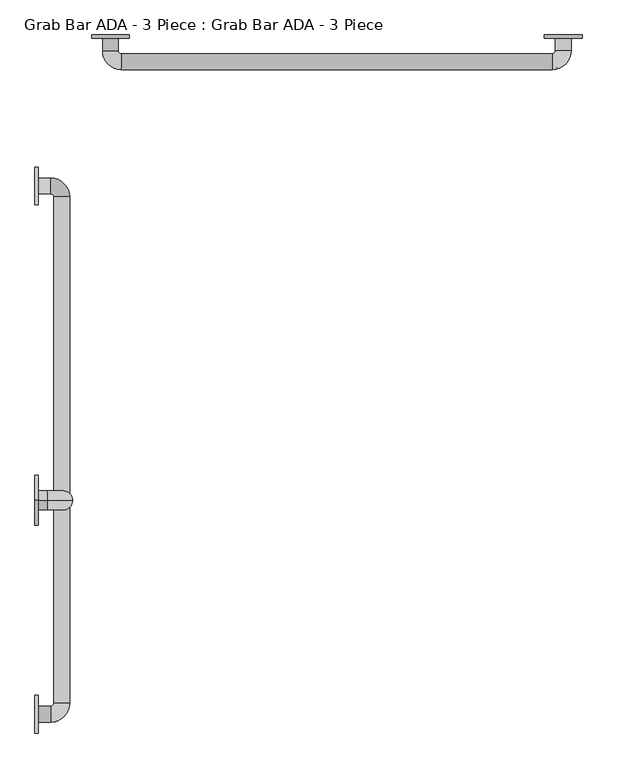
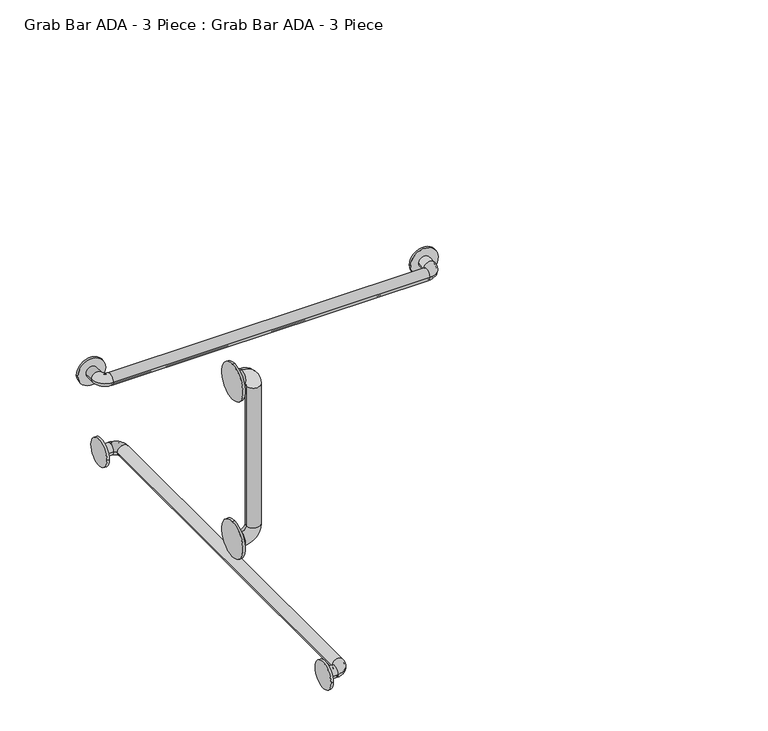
"""IFC4 building model written with IfcOpenShell, lengths in millimetres: proxy geometry, Grab Bar ADA - 3 Piece : Grab Bar ADA - 3 Piece."""

import ifcopenshell
import ifcopenshell.guid

model = None  # the IFC model being written
_history = None  # IfcOwnerHistory: only IFC2X3 demands one
_inside = {}  # id of a spatial element -> (the spatial element, [elements in it])
_under = {}  # id of a project, library or spatial element -> (it, [spatial elements below it])
_declared = {}  # id of a project -> (the project, [libraries it declares])
_typed = {}  # id of a type object -> (the type object, [elements of that type])
_made_of = {}  # id of a material, layer set ... -> (it, [elements and type objects made of it])


def new_model(schema):
    """Start an empty IFC model of exactly this schema.

    Asked for "IFC4X3", IfcOpenShell would pick the latest addendum, in which some entities
    have other attributes; the version numbers below select the first issue.
    IFC2X3 requires an IfcOwnerHistory on every rooted entity: one is made here for all.
    """
    global model, _history
    if schema == "IFC4X3":
        model = ifcopenshell.file(schema_version=(4, 3, 0, 0))
    else:
        model = ifcopenshell.file(schema=schema)
    _inside.clear()
    _under.clear()
    _declared.clear()
    _typed.clear()
    _made_of.clear()
    _history = None
    if model.schema == "IFC2X3":
        org = make("IfcOrganization", Name="unknown")
        user = make(
            "IfcPersonAndOrganization",
            ThePerson=make("IfcPerson", FamilyName="unknown"),
            TheOrganization=org,
        )
        app = make(
            "IfcApplication",
            ApplicationDeveloper=org,
            Version="unknown",
            ApplicationFullName="unknown",
            ApplicationIdentifier="unknown",
        )
        _history = make(
            "IfcOwnerHistory",
            OwningUser=user,
            OwningApplication=app,
            ChangeAction="ADDED",
            CreationDate=0,
        )
    return model


def make(cls, **values):
    """One entity of the class cls with the attributes given. An attribute that is None is left unset."""
    return model.create_entity(
        cls, **{name: value for name, value in values.items() if value is not None}
    )


def rooted(cls, **values):
    """An entity with a GlobalId (a new one), such as an element, a storey or a relation."""
    return make(cls, GlobalId=ifcopenshell.guid.new(), OwnerHistory=_history, **values)


def si_unit(unit_type, name, prefix=None):
    """IfcSIUnit, for example si_unit("LENGTHUNIT", "METRE", prefix="MILLI")."""
    return make("IfcSIUnit", UnitType=unit_type, Prefix=prefix, Name=name)


def assignment(units):
    """IfcUnitAssignment: the units of a project."""
    return None if units is None else make("IfcUnitAssignment", Units=units)


def point(xyz):
    """IfcCartesianPoint."""
    return None if xyz is None else make("IfcCartesianPoint", Coordinates=xyz)


def direction(xyz):
    """IfcDirection."""
    return None if xyz is None else make("IfcDirection", DirectionRatios=xyz)


def frame(location, z_axis=None, x_axis=None):
    """IfcAxis2Placement3D, a coordinate frame: its origin and axes. An axis left out is left unset."""
    return make(
        "IfcAxis2Placement3D",
        Location=point(location),
        Axis=direction(z_axis),
        RefDirection=direction(x_axis),
    )


def frame_2d(location, x_axis=None):
    """IfcAxis2Placement2D, a coordinate frame in the plane: its origin and x axis."""
    return make(
        "IfcAxis2Placement2D", Location=point(location), RefDirection=direction(x_axis)
    )


def origin():
    """The frame at (0, 0, 0) with its axes left unset."""
    return frame((0.0, 0.0, 0.0))


def place(relative_to, where):
    """IfcLocalPlacement: puts the frame where relative to a parent placement (None: the world)."""
    return make(
        "IfcLocalPlacement", PlacementRelTo=relative_to, RelativePlacement=where
    )


def context(
    kind, dimensions, precision=None, world=None, true_north=None, identifier=None
):
    """IfcGeometricRepresentationContext, for example the 3D "Model" context."""
    return make(
        "IfcGeometricRepresentationContext",
        ContextIdentifier=identifier,
        ContextType=kind,
        CoordinateSpaceDimension=dimensions,
        Precision=precision,
        WorldCoordinateSystem=world,
        TrueNorth=true_north,
    )


def project(units=None, contexts=None):
    """IfcProject with its units and contexts."""
    return rooted(
        "IfcProject",
        Name="project",
        RepresentationContexts=contexts,
        UnitsInContext=assignment(units),
    )


def spatial(cls, under=None, at=None, **own):
    """A site, building, storey or space (cls), placed at a placement, below another one or the project."""
    s = rooted(cls, ObjectPlacement=at, **own)
    if under is not None:
        _under.setdefault(under.id(), (under, []))[1].append(s)
    return s


def polyline(points):
    """IfcPolyline through the points."""
    return make("IfcPolyline", Points=[point(p) for p in points])


def circle_curve(where, radius):
    """IfcCircle in the frame where."""
    return make("IfcCircle", Position=where, Radius=radius)


def ellipse_curve(where, semi_axis1, semi_axis2):
    """IfcEllipse in the frame where."""
    return make(
        "IfcEllipse", Position=where, SemiAxis1=semi_axis1, SemiAxis2=semi_axis2
    )


def trimmed(basis, trim1, trim2, sense, master):
    """IfcTrimmedCurve: the piece of a basis curve between two trims."""
    return make(
        "IfcTrimmedCurve",
        BasisCurve=basis,
        Trim1=trim1,
        Trim2=trim2,
        SenseAgreement=sense,
        MasterRepresentation=master,
    )


def segment(curve, same_sense, transition):
    """IfcCompositeCurveSegment."""
    return make(
        "IfcCompositeCurveSegment",
        Transition=transition,
        SameSense=same_sense,
        ParentCurve=curve,
    )


def composite_curve(segments, self_intersect=None):
    """IfcCompositeCurve: segments joined end to end."""
    return make("IfcCompositeCurve", Segments=segments, SelfIntersect=self_intersect)


def outline(outer, holes=None, kind="AREA"):
    """IfcArbitraryClosedProfileDef: a profile drawn as a closed curve; with holes, ...WithVoids."""
    if holes is None:
        return make("IfcArbitraryClosedProfileDef", ProfileType=kind, OuterCurve=outer)
    return make(
        "IfcArbitraryProfileDefWithVoids",
        ProfileType=kind,
        OuterCurve=outer,
        InnerCurves=holes,
    )


def extrude(swept, where, along, depth):
    """IfcExtrudedAreaSolid: the profile swept, set in the frame where, extruded along a direction by depth."""
    return make(
        "IfcExtrudedAreaSolid",
        SweptArea=swept,
        Position=where,
        ExtrudedDirection=direction(along),
        Depth=depth,
    )


def shape(context_of_items, identifier, shape_type, items):
    """IfcShapeRepresentation: the items that make up one representation, for example the "Body"."""
    return make(
        "IfcShapeRepresentation",
        ContextOfItems=context_of_items,
        RepresentationIdentifier=identifier,
        RepresentationType=shape_type,
        Items=items,
    )


def source(mapping_origin, context_of_items, identifier, shape_type, items):
    """IfcRepresentationMap: a shape defined once, which mapped items show again and again."""
    return make(
        "IfcRepresentationMap",
        MappingOrigin=mapping_origin,
        MappedRepresentation=shape(context_of_items, identifier, shape_type, items),
    )


def transform(
    local_origin,
    x_axis=None,
    y_axis=None,
    z_axis=None,
    scale=None,
    scale2=None,
    scale3=None,
    uniform=True,
):
    """IfcCartesianTransformationOperator3D, or its non-uniform kind. x_axis, y_axis, z_axis: its Axis1, 2, 3."""
    if uniform:
        return make(
            "IfcCartesianTransformationOperator3D",
            Axis1=direction(x_axis),
            Axis2=direction(y_axis),
            LocalOrigin=point(local_origin),
            Scale=scale,
            Axis3=direction(z_axis),
        )
    return make(
        "IfcCartesianTransformationOperator3DnonUniform",
        Axis1=direction(x_axis),
        Axis2=direction(y_axis),
        LocalOrigin=point(local_origin),
        Scale=scale,
        Axis3=direction(z_axis),
        Scale2=scale2,
        Scale3=scale3,
    )


def mapped(mapping_source, mapping_target):
    """IfcMappedItem: shows the shape of a source again, moved by a transform."""
    return make(
        "IfcMappedItem", MappingSource=mapping_source, MappingTarget=mapping_target
    )


def made_of(thing, what):
    """Note that an element or type object is made of a material, layer set ...; save() writes the relation."""
    if what is not None:
        _made_of.setdefault(what.id(), (what, []))[1].append(thing)
    return thing


def element(
    cls,
    number,
    at=None,
    inside=None,
    cuts=None,
    type_object=None,
    material=None,
    context=None,
    identifier="Body",
    shape_type=None,
    held_by="IfcProductDefinitionShape",
    body=None,
    shapes=None,
    **own,
):
    """One element of the class cls, such as IfcWall. Its Tag is "e" and its number.

    at: its placement. inside: the storey or other place that contains it. cuts: it is an
    opening in that element (IfcRelVoidsElement). A single representation is given by context,
    identifier, shape_type and body (its items); several are given by shapes. held_by: the class
    of the entity that holds the representations. save() writes the other relations.
    """
    e = rooted(cls, Tag="e%d" % number, ObjectPlacement=at, **own)
    if body is not None:
        shapes = [shape(context, identifier, shape_type, body)]
    if shapes is not None:
        e.Representation = make(held_by, Representations=shapes)
    if inside is not None:
        _inside.setdefault(inside.id(), (inside, []))[1].append(e)
    if cuts is not None:
        rooted(
            "IfcRelVoidsElement", RelatingBuildingElement=cuts, RelatedOpeningElement=e
        )
    if type_object is not None:
        _typed.setdefault(type_object.id(), (type_object, []))[1].append(e)
    return made_of(e, material)


def aggregate(whole, parts):
    """IfcRelAggregates: a whole, such as a stair, and the parts it consists of."""
    return rooted("IfcRelAggregates", RelatingObject=whole, RelatedObjects=parts)


def save(model, path):
    """Write the relations noted so far, then the file.

    IfcRelAggregates (storeys below a building ...), IfcRelContainedInSpatialStructure (elements
    in a storey), IfcRelDefinesByType, IfcRelAssociatesMaterial and IfcRelDeclares: one each for
    every whole, place, type object, material and project.
    """
    for whole, parts in _under.values():
        aggregate(whole, parts)
    for where, things in _inside.values():
        rooted(
            "IfcRelContainedInSpatialStructure",
            RelatedElements=things,
            RelatingStructure=where,
        )
    for kind, things in _typed.values():
        rooted("IfcRelDefinesByType", RelatedObjects=things, RelatingType=kind)
    for what, things in _made_of.values():
        rooted("IfcRelAssociatesMaterial", RelatedObjects=things, RelatingMaterial=what)
    for by, libraries in _declared.values():
        rooted("IfcRelDeclares", RelatingContext=by, RelatedDefinitions=libraries)
    model.write(path)


def plane_surface(at):
    """IfcPlane: the flat surface through the origin of the frame at, square to its z axis."""
    return make("IfcPlane", Position=at)


def cylinder_surface(at, radius):
    """IfcCylindricalSurface: all points at the distance radius from the z axis of the frame at."""
    return make("IfcCylindricalSurface", Position=at, Radius=radius)


def revolved_surface(curve, axis_point, axis_direction):
    """IfcSurfaceOfRevolution: the curve turned about the line through axis_point along axis_direction."""
    return make(
        "IfcSurfaceOfRevolution",
        SweptCurve=make("IfcArbitraryOpenProfileDef", ProfileType="CURVE", Curve=curve),
        AxisPosition=make("IfcAxis1Placement", Location=point(axis_point), Axis=direction(axis_direction)),
    )


def advanced_brep(points, edges, surfaces, faces):
    """IfcAdvancedBrep: a solid bounded by faces that lie on surfaces and meet in shared edges.

    An edge is (start, end): straight between two places in points (the first is 0);
    or (start, end, curve); or (start, end, curve, False) where it runs against its curve.
    A face is (place in surfaces, loops), or (place, loops, False) where it looks against
    its surface's normal. A loop lists edges by number (the first is 1), with a minus sign
    where the edge is run from its end to its start. The first loop is the outer one.
    """
    corners = [point(p) for p in points]
    vertices = [make("IfcVertexPoint", VertexGeometry=c) for c in corners]
    made = []
    for start, end, *more in edges:
        made.append(
            make(
                "IfcEdgeCurve",
                EdgeStart=vertices[start],
                EdgeEnd=vertices[end],
                EdgeGeometry=more[0] if more else make("IfcPolyline", Points=[corners[start], corners[end]]),
                SameSense=more[1] if len(more) > 1 else True,
            )
        )
    hull = []
    for where, loops, *sense in faces:
        bounds = []
        for j, loop in enumerate(loops):
            ring = [make("IfcOrientedEdge", EdgeElement=made[abs(k) - 1], Orientation=k > 0) for k in loop]
            bounds.append(
                make(
                    "IfcFaceOuterBound" if j == 0 else "IfcFaceBound",
                    Bound=make("IfcEdgeLoop", EdgeList=ring),
                    Orientation=True,
                )
            )
        hull.append(make("IfcAdvancedFace", Bounds=bounds, FaceSurface=surfaces[where], SameSense=sense[0] if sense else True))
    return make("IfcAdvancedBrep", Outer=make("IfcClosedShell", CfsFaces=hull))


def grab_bar_ada_3_piece_grab_bar_ada_3_piece_66226777(model_context):
    return source(origin(), model_context, "Body", "SolidModel", [
        extrude(outline(composite_curve([segment(trimmed(circle_curve(frame_2d((-1092.2, 1428.75)), 50.8), [point((-1092.2, 1479.55))], [point((-1092.2, 1377.95))], False, "CARTESIAN"), True, "CONTINUOUS"), segment(trimmed(circle_curve(frame_2d((-1092.2, 1428.75)), 50.8), [point((-1092.2, 1377.95))], [point((-1092.2, 1479.55))], False, "CARTESIAN"), True, "CONTINUOUS")], self_intersect=False)), frame((0.0, 0.0, 0.0), z_axis=(1.0, 0.0, 0.0), x_axis=(0.0, 1.0, 0.0)), (0.0, 0.0, 1.0), 6.35),
        extrude(outline(composite_curve([segment(trimmed(circle_curve(frame_2d((-1092.2, 971.55)), 50.8), [point((-1092.2, 1022.35))], [point((-1092.2, 920.75))], False, "CARTESIAN"), True, "CONTINUOUS"), segment(trimmed(circle_curve(frame_2d((-1092.2, 971.55)), 50.8), [point((-1092.2, 920.75))], [point((-1092.2, 1022.35))], False, "CARTESIAN"), True, "CONTINUOUS")], self_intersect=False)), frame((0.0, 0.0, 0.0), z_axis=(1.0, 0.0, 0.0), x_axis=(0.0, 1.0, 0.0)), (0.0, 0.0, 1.0), 6.35),
        advanced_brep(
        [(6.35, -1092.2, 1416.05), (6.35, -1092.2, 1454.15), (25.4, -1092.2, 1454.15), (25.4, -1092.2, 1416.05), (76.2, -1092.2, 1403.35), (38.1, -1092.2, 1403.35), (76.2, -1092.2, 996.95), (38.1, -1092.2, 996.95), (25.4, -1092.2, 946.15), (25.4, -1092.2, 984.25), (6.35, -1092.2, 984.25), (6.35, -1092.2, 946.15)],
        [
            (0, 1, circle_curve(frame((6.35, -1092.2, 1435.1), z_axis=(-1.0, 0.0, 0.0), x_axis=(0.0, -1.0, 0.0)), 19.05)),
            (1, 0, circle_curve(frame((6.35, -1092.2, 1435.1), z_axis=(-1.0, 0.0, 0.0), x_axis=(0.0, -1.0, 0.0)), 19.05)),
            (1, 2),
            (2, 3, circle_curve(frame((25.4, -1092.2, 1435.1), z_axis=(-1.0, 0.0, 0.0), x_axis=(0.0, -1.0, 0.0)), 19.05)),
            (3, 0),
            (3, 2, circle_curve(frame((25.4, -1092.2, 1435.1), z_axis=(-1.0, 0.0, 0.0), x_axis=(0.0, -1.0, 0.0)), 19.05)),
            (4, 5, circle_curve(frame((57.15, -1092.2, 1403.35), z_axis=(0.0, 0.0, 1.0), x_axis=(0.0, -1.0, 0.0)), 19.05)),
            (5, 3, circle_curve(frame((25.4, -1092.2, 1403.35), z_axis=(0.0, -1.0, 0.0), x_axis=(0.0, 0.0, 1.0)), 12.7)),
            (2, 4, circle_curve(frame((25.4, -1092.2, 1403.35), z_axis=(0.0, 1.0, 0.0), x_axis=(0.0, 0.0, 1.0)), 50.8)),
            (5, 4, circle_curve(frame((57.15, -1092.2, 1403.35), z_axis=(0.0, 0.0, 1.0), x_axis=(0.0, -1.0, 0.0)), 19.05)),
            (4, 6),
            (6, 7, circle_curve(frame((57.15, -1092.2, 996.95), z_axis=(0.0, 0.0, 1.0), x_axis=(0.0, -1.0, 0.0)), 19.05)),
            (7, 5),
            (7, 6, circle_curve(frame((57.15, -1092.2, 996.95), z_axis=(0.0, 0.0, 1.0), x_axis=(0.0, -1.0, 0.0)), 19.05)),
            (8, 9, circle_curve(frame((25.4, -1092.2, 965.2), z_axis=(1.0, 0.0, 0.0), x_axis=(0.0, -1.0, 0.0)), 19.05)),
            (9, 7, circle_curve(frame((25.4, -1092.2, 996.95), z_axis=(0.0, -1.0, 0.0), x_axis=(1.0, 0.0, 0.0)), 12.7)),
            (6, 8, circle_curve(frame((25.4, -1092.2, 996.95), z_axis=(0.0, 1.0, 0.0), x_axis=(1.0, 0.0, 0.0)), 50.8)),
            (9, 8, circle_curve(frame((25.4, -1092.2, 965.2), z_axis=(1.0, 0.0, 0.0), x_axis=(0.0, -1.0, 0.0)), 19.05)),
            (10, 11, circle_curve(frame((6.35, -1092.2, 965.2), z_axis=(-1.0, 0.0, 0.0), x_axis=(0.0, -1.0, 0.0)), 19.05)),
            (11, 10, circle_curve(frame((6.35, -1092.2, 965.2), z_axis=(-1.0, 0.0, 0.0), x_axis=(0.0, -1.0, 0.0)), 19.05)),
            (8, 11),
            (10, 9),
        ],
        [
            plane_surface(frame((6.35, -177.8, 495.2784016), z_axis=(-1.0, 0.0, 0.0), x_axis=(0.0, -1.0, 0.0))),
            cylinder_surface(frame((6.35, -1092.2, 1435.1), z_axis=(-1.0, 0.0, 0.0), x_axis=(0.0, -1.0, 0.0)), 19.05),
            revolved_surface(trimmed(ellipse_curve(frame((25.4, -1092.2, 1435.1), z_axis=(1.0, 0.0, 0.0), x_axis=(0.0, -1.0, 0.0)), 19.05, 19.05), [point((25.4, -1092.2, 1416.05))], [point((25.4, -1092.2, 1454.15))], True, "CARTESIAN"), (25.4, -177.8, 1403.35), (0.0, -1.0, 0.0)),
            revolved_surface(trimmed(ellipse_curve(frame((25.4, -1092.2, 1435.1), z_axis=(1.0, 0.0, 0.0), x_axis=(0.0, -1.0, 0.0)), 19.05, 19.05), [point((25.4, -1092.2, 1454.15))], [point((25.4, -1092.2, 1416.05))], True, "CARTESIAN"), (25.4, -177.8, 1403.35), (0.0, -1.0, 0.0)),
            cylinder_surface(frame((57.15, -1092.2, 1403.35), z_axis=(0.0, 0.0, 1.0), x_axis=(0.0, -1.0, 0.0)), 19.05),
            revolved_surface(trimmed(ellipse_curve(frame((57.15, -1092.2, 996.95), z_axis=(0.0, 0.0, -1.0), x_axis=(0.0, -1.0, 0.0)), 19.05, 19.05), [point((38.1, -1092.2, 996.95))], [point((76.2, -1092.2, 996.95))], True, "CARTESIAN"), (25.4, -177.8, 996.95), (0.0, -1.0, 0.0)),
            revolved_surface(trimmed(ellipse_curve(frame((57.15, -1092.2, 996.95), z_axis=(0.0, 0.0, -1.0), x_axis=(0.0, -1.0, 0.0)), 19.05, 19.05), [point((76.2, -1092.2, 996.95))], [point((38.1, -1092.2, 996.95))], True, "CARTESIAN"), (25.4, -177.8, 996.95), (0.0, -1.0, 0.0)),
            plane_surface(frame((6.35, -177.8, 38.0784016), z_axis=(-1.0, 0.0, 0.0), x_axis=(0.0, 1.0, 0.0))),
            cylinder_surface(frame((25.4, -1092.2, 965.2), z_axis=(1.0, 0.0, 0.0), x_axis=(0.0, -1.0, 0.0)), 19.05),
        ],
        [
            (0, [[1, 2]]),
            (1, [[3, 4, 5, -2]]),
            (1, [[-5, 6, -3, -1]]),
            (2, [[7, 8, -4, 9]]),
            (3, [[10, -9, -6, -8]]),
            (4, [[11, 12, 13, -7]]),
            (4, [[-13, 14, -11, -10]]),
            (5, [[15, 16, -12, 17]]),
            (6, [[18, -17, -14, -16]]),
            (7, [[19, 20]]),
            (8, [[21, -19, 22, -15]]),
            (8, [[-22, -20, -21, -18]]),
        ],
    ),
        advanced_brep(
        [(6.35, -1508.125, 838.2), (6.35, -1539.875, 838.2), (6.35, -1511.3, 838.2), (6.35, -1536.7, 838.2), (31.75, -1539.875, 838.2), (31.75, -1508.125, 838.2), (31.75, -1536.7, 838.2), (31.75, -1511.3, 838.2), (69.85, -1501.775, 838.2), (38.1, -1501.775, 838.2), (66.675, -1501.775, 838.2), (41.275, -1501.775, 838.2), (69.85, -479.425, 838.2), (38.1, -479.425, 838.2), (66.675, -479.425, 838.2), (41.275, -479.425, 838.2), (31.75, -441.325, 838.2), (31.75, -473.075, 838.2), (31.75, -444.5, 838.2), (31.75, -469.9, 838.2), (6.35, -473.075, 838.2), (6.35, -441.325, 838.2), (6.35, -469.9, 838.2), (6.35, -444.5, 838.2)],
        [
            (0, 1, circle_curve(frame((6.35, -1524.0, 838.2), z_axis=(-1.0, 0.0, 0.0), x_axis=(0.0, -1.0, 0.0)), 15.875)),
            (1, 0, circle_curve(frame((6.35, -1524.0, 838.2), z_axis=(-1.0, 0.0, 0.0), x_axis=(0.0, -1.0, 0.0)), 15.875)),
            (2, 3, circle_curve(frame((6.35, -1524.0, 838.2), z_axis=(1.0, 0.0, 0.0), x_axis=(0.0, -1.0, 0.0)), 12.7)),
            (3, 2, circle_curve(frame((6.35, -1524.0, 838.2), z_axis=(1.0, 0.0, 0.0), x_axis=(0.0, -1.0, 0.0)), 12.7)),
            (1, 4),
            (4, 5, circle_curve(frame((31.75, -1524.0, 838.2), z_axis=(-1.0, 0.0, 0.0), x_axis=(0.0, -1.0, 0.0)), 15.875)),
            (5, 0),
            (5, 4, circle_curve(frame((31.75, -1524.0, 838.2), z_axis=(-1.0, 0.0, 0.0), x_axis=(0.0, -1.0, 0.0)), 15.875)),
            (3, 6),
            (6, 7, circle_curve(frame((31.75, -1524.0, 838.2), z_axis=(1.0, 0.0, 0.0), x_axis=(0.0, -1.0, 0.0)), 12.7)),
            (7, 2),
            (7, 6, circle_curve(frame((31.75, -1524.0, 838.2), z_axis=(1.0, 0.0, 0.0), x_axis=(0.0, -1.0, 0.0)), 12.7)),
            (8, 9, circle_curve(frame((53.975, -1501.775, 838.2), z_axis=(0.0, -1.0, 0.0), x_axis=(1.0, 0.0, 0.0)), 15.875)),
            (9, 5, circle_curve(frame((31.75, -1501.775, 838.2), z_axis=(0.0, 0.0, -1.0), x_axis=(0.0, -1.0, 0.0)), 6.35)),
            (4, 8, circle_curve(frame((31.75, -1501.775, 838.2), z_axis=(0.0, 0.0, 1.0), x_axis=(0.0, -1.0, 0.0)), 38.1)),
            (9, 8, circle_curve(frame((53.975, -1501.775, 838.2), z_axis=(0.0, -1.0, 0.0), x_axis=(1.0, 0.0, 0.0)), 15.875)),
            (10, 11, circle_curve(frame((53.975, -1501.775, 838.2), z_axis=(0.0, 1.0, 0.0), x_axis=(1.0, 0.0, 0.0)), 12.7)),
            (11, 7, circle_curve(frame((31.75, -1501.775, 838.2), z_axis=(0.0, 0.0, -1.0), x_axis=(0.0, -1.0, 0.0)), 9.525)),
            (6, 10, circle_curve(frame((31.75, -1501.775, 838.2), z_axis=(0.0, 0.0, 1.0), x_axis=(0.0, -1.0, 0.0)), 34.925)),
            (11, 10, circle_curve(frame((53.975, -1501.775, 838.2), z_axis=(0.0, 1.0, 0.0), x_axis=(1.0, 0.0, 0.0)), 12.7)),
            (8, 12),
            (12, 13, circle_curve(frame((53.975, -479.425, 838.2), z_axis=(0.0, -1.0, 0.0), x_axis=(1.0, 0.0, 0.0)), 15.875)),
            (13, 9),
            (13, 12, circle_curve(frame((53.975, -479.425, 838.2), z_axis=(0.0, -1.0, 0.0), x_axis=(1.0, 0.0, 0.0)), 15.875)),
            (10, 14),
            (14, 15, circle_curve(frame((53.975, -479.425, 838.2), z_axis=(0.0, 1.0, 0.0), x_axis=(1.0, 0.0, 0.0)), 12.7)),
            (15, 11),
            (15, 14, circle_curve(frame((53.975, -479.425, 838.2), z_axis=(0.0, 1.0, 0.0), x_axis=(1.0, 0.0, 0.0)), 12.7)),
            (16, 17, circle_curve(frame((31.75, -457.2, 838.2), z_axis=(1.0, 0.0, 0.0), x_axis=(0.0, 1.0, 0.0)), 15.875)),
            (17, 13, circle_curve(frame((31.75, -479.425, 838.2), z_axis=(0.0, 0.0, -1.0), x_axis=(1.0, 0.0, 0.0)), 6.35)),
            (12, 16, circle_curve(frame((31.75, -479.425, 838.2), z_axis=(0.0, 0.0, 1.0), x_axis=(1.0, 0.0, 0.0)), 38.1)),
            (17, 16, circle_curve(frame((31.75, -457.2, 838.2), z_axis=(1.0, 5.761307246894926e-12, 0.0), x_axis=(-5.761307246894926e-12, 1.0, 0.0)), 15.875)),
            (18, 19, circle_curve(frame((31.75, -457.2, 838.2), z_axis=(-1.0, 0.0, 0.0), x_axis=(0.0, 1.0, 0.0)), 12.7)),
            (19, 15, circle_curve(frame((31.75, -479.425, 838.2), z_axis=(0.0, 0.0, -1.0), x_axis=(1.0, 0.0, 0.0)), 9.525)),
            (14, 18, circle_curve(frame((31.75, -479.425, 838.2), z_axis=(0.0, 0.0, 1.0), x_axis=(1.0, 0.0, 0.0)), 34.925)),
            (19, 18, circle_curve(frame((31.75, -457.2, 838.2), z_axis=(-1.0, -3.69740264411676e-12, 0.0), x_axis=(-3.69740264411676e-12, 1.0, 0.0)), 12.7)),
            (20, 21, circle_curve(frame((6.35, -457.2, 838.2), z_axis=(-1.0, 0.0, 0.0), x_axis=(0.0, 1.0, 0.0)), 15.875)),
            (21, 20, circle_curve(frame((6.35, -457.2, 838.2), z_axis=(-1.0, 0.0, 0.0), x_axis=(0.0, 1.0, 0.0)), 15.875)),
            (22, 23, circle_curve(frame((6.35, -457.2, 838.2), z_axis=(1.0, 0.0, 0.0), x_axis=(0.0, 1.0, 0.0)), 12.7)),
            (23, 22, circle_curve(frame((6.35, -457.2, 838.2), z_axis=(1.0, 0.0, 0.0), x_axis=(0.0, 1.0, 0.0)), 12.7)),
            (16, 21),
            (20, 17),
            (18, 23),
            (22, 19),
        ],
        [
            plane_surface(frame((6.35, -1524.0, 838.2), z_axis=(-1.0, 0.0, 0.0), x_axis=(0.0, 0.0, 1.0))),
            cylinder_surface(frame((6.35, -1524.0, 838.2), z_axis=(-1.0, 0.0, 0.0), x_axis=(0.0, -1.0, 0.0)), 15.875),
            revolved_surface(polyline([(31.75, -1536.7, 838.2), (6.35, -1536.7, 838.2)]), (6.35, -1524.0, 838.2), (1.0, 0.0, 0.0)),
            revolved_surface(trimmed(ellipse_curve(frame((31.75, -1524.0, 838.2), z_axis=(1.0, 0.0, 0.0), x_axis=(0.0, -1.0, 0.0)), 15.875, 15.875), [point((31.75, -1508.125, 838.2))], [point((31.75, -1539.875, 838.2))], True, "CARTESIAN"), (31.75, -1501.775, 838.2), (0.0, 0.0, -1.0)),
            revolved_surface(trimmed(ellipse_curve(frame((31.75, -1524.0, 838.2), z_axis=(1.0, 0.0, 0.0), x_axis=(0.0, -1.0, 0.0)), 15.875, 15.875), [point((31.75, -1539.875, 838.2))], [point((31.75, -1508.125, 838.2))], True, "CARTESIAN"), (31.75, -1501.775, 838.2), (0.0, 0.0, -1.0)),
            revolved_surface(trimmed(ellipse_curve(frame((31.75, -1524.0, 838.2), z_axis=(-1.0, 0.0, 0.0), x_axis=(0.0, -1.0, 0.0)), 12.7, 12.7), [point((31.75, -1511.3, 838.2))], [point((31.75, -1536.7, 838.2))], True, "CARTESIAN"), (31.75, -1501.775, 838.2), (0.0, 0.0, -1.0)),
            revolved_surface(trimmed(ellipse_curve(frame((31.75, -1524.0, 838.2), z_axis=(-1.0, 0.0, 0.0), x_axis=(0.0, -1.0, 0.0)), 12.7, 12.7), [point((31.75, -1536.7, 838.2))], [point((31.75, -1511.3, 838.2))], True, "CARTESIAN"), (31.75, -1501.775, 838.2), (0.0, 0.0, -1.0)),
            cylinder_surface(frame((53.975, -1501.775, 838.2), z_axis=(0.0, -1.0, 0.0), x_axis=(1.0, 0.0, 0.0)), 15.875),
            revolved_surface(polyline([(66.675, -479.42499999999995, 838.2), (66.675, -1501.775, 838.2)]), (53.975, -1501.775, 838.2), (0.0, 1.0, 0.0)),
            revolved_surface(trimmed(ellipse_curve(frame((53.975, -479.425, 838.2), z_axis=(0.0, 1.0, 0.0), x_axis=(1.0, 0.0, 0.0)), 15.875, 15.875), [point((38.1, -479.425, 838.2))], [point((69.85, -479.425, 838.2))], True, "CARTESIAN"), (31.75, -479.425, 838.2), (0.0, 0.0, -1.0)),
            revolved_surface(trimmed(ellipse_curve(frame((53.975, -479.425, 838.2), z_axis=(0.0, 1.0, 0.0), x_axis=(1.0, 0.0, 0.0)), 15.875, 15.875), [point((69.85, -479.425, 838.2))], [point((38.1, -479.425, 838.2))], True, "CARTESIAN"), (31.75, -479.425, 838.2), (0.0, 0.0, -1.0)),
            revolved_surface(trimmed(ellipse_curve(frame((53.975, -479.425, 838.2), z_axis=(0.0, -1.0, 0.0), x_axis=(1.0, 0.0, 0.0)), 12.7, 12.7), [point((41.275, -479.425, 838.2))], [point((66.675, -479.425, 838.2))], True, "CARTESIAN"), (31.75, -479.425, 838.2), (0.0, 0.0, -1.0)),
            revolved_surface(trimmed(ellipse_curve(frame((53.975, -479.425, 838.2), z_axis=(0.0, -1.0, 0.0), x_axis=(1.0, 0.0, 0.0)), 12.7, 12.7), [point((66.675, -479.425, 838.2))], [point((41.275, -479.425, 838.2))], True, "CARTESIAN"), (31.75, -479.425, 838.2), (0.0, 0.0, -1.0)),
            plane_surface(frame((6.35, -457.2, 838.2), z_axis=(-1.0, 0.0, 0.0), x_axis=(0.0, 0.0, 1.0))),
            cylinder_surface(frame((31.75, -457.2, 838.2), z_axis=(1.0, 0.0, 0.0), x_axis=(0.0, 1.0, 0.0)), 15.875),
            revolved_surface(polyline([(6.350000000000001, -444.5, 838.2), (31.75, -444.5, 838.2)]), (31.75, -457.2, 838.2), (-1.0, 0.0, 0.0)),
            revolved_surface(polyline([(6.350000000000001, -444.5, 838.2), (31.750000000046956, -444.5, 838.2)]), (31.75, -457.2, 838.2), (-1.0, 0.0, 0.0)),
        ],
        [
            (0, [[1, 2], [3, 4]]),
            (1, [[5, 6, 7, -2]]),
            (1, [[-7, 8, -5, -1]]),
            (2, [[9, 10, 11, -4]]),
            (2, [[-11, 12, -9, -3]]),
            (3, [[13, 14, -6, 15]]),
            (4, [[16, -15, -8, -14]]),
            (5, [[17, 18, -10, 19]]),
            (6, [[20, -19, -12, -18]]),
            (7, [[21, 22, 23, -13]]),
            (7, [[-23, 24, -21, -16]]),
            (8, [[25, 26, 27, -17]]),
            (8, [[-27, 28, -25, -20]]),
            (9, [[29, 30, -22, 31]]),
            (10, [[32, -31, -24, -30]]),
            (11, [[33, 34, -26, 35]]),
            (12, [[36, -35, -28, -34]]),
            (13, [[37, 38], [39, 40]]),
            (14, [[41, -37, 42, -29]]),
            (14, [[-42, -38, -41, -32]]),
            (15, [[43, -39, 44, -33]]),
            (16, [[-44, -40, -43, -36]]),
        ],
    ),
        advanced_brep(
        [(168.275, -158.75, 838.2), (136.525, -158.75, 838.2), (165.1, -158.75, 838.2), (139.7, -158.75, 838.2), (136.525, -184.15, 838.2), (168.275, -184.15, 838.2), (139.7, -184.15, 838.2), (165.1, -184.15, 838.2), (174.625, -222.25, 838.2), (174.625, -190.5, 838.2), (174.625, -219.075, 838.2), (174.625, -193.675, 838.2), (1044.575, -222.25, 838.2), (1044.575, -190.5, 838.2), (1044.575, -219.075, 838.2), (1044.575, -193.675, 838.2), (1082.675, -184.15, 838.2), (1050.925, -184.15, 838.2), (1079.5, -184.15, 838.2), (1054.1, -184.15, 838.2), (1050.925, -158.75, 838.2), (1082.675, -158.75, 838.2), (1054.1, -158.75, 838.2), (1079.5, -158.75, 838.2)],
        [
            (0, 1, circle_curve(frame((152.4, -158.75, 838.2), z_axis=(0.0, 1.0, 0.0), x_axis=(-1.0, 0.0, 0.0)), 15.875)),
            (1, 0, circle_curve(frame((152.4, -158.75, 838.2), z_axis=(0.0, 1.0, 0.0), x_axis=(-1.0, 0.0, 0.0)), 15.875)),
            (2, 3, circle_curve(frame((152.4, -158.75, 838.2), z_axis=(0.0, -1.0, 0.0), x_axis=(-1.0, 0.0, 0.0)), 12.7)),
            (3, 2, circle_curve(frame((152.4, -158.75, 838.2), z_axis=(0.0, -1.0, 0.0), x_axis=(-1.0, 0.0, 0.0)), 12.7)),
            (1, 4),
            (4, 5, circle_curve(frame((152.4, -184.15, 838.2), z_axis=(0.0, 1.0, 0.0), x_axis=(-1.0, 0.0, 0.0)), 15.875)),
            (5, 0),
            (5, 4, circle_curve(frame((152.4, -184.15, 838.2), z_axis=(0.0, 1.0, 0.0), x_axis=(-1.0, 0.0, 0.0)), 15.875)),
            (3, 6),
            (6, 7, circle_curve(frame((152.4, -184.15, 838.2), z_axis=(0.0, -1.0, 0.0), x_axis=(-1.0, 0.0, 0.0)), 12.7)),
            (7, 2),
            (7, 6, circle_curve(frame((152.4, -184.15, 838.2), z_axis=(0.0, -1.0, 0.0), x_axis=(-1.0, 0.0, 0.0)), 12.7)),
            (8, 9, circle_curve(frame((174.625, -206.375, 838.2), z_axis=(-1.0, 0.0, 0.0), x_axis=(0.0, -1.0, 0.0)), 15.875)),
            (9, 5, circle_curve(frame((174.625, -184.15, 838.2), z_axis=(0.0, 0.0, -1.0), x_axis=(-1.0, 0.0, 0.0)), 6.35)),
            (4, 8, circle_curve(frame((174.625, -184.15, 838.2), z_axis=(0.0, 0.0, 1.0), x_axis=(-1.0, 0.0, 0.0)), 38.1)),
            (9, 8, circle_curve(frame((174.625, -206.375, 838.2), z_axis=(-1.0, 0.0, 0.0), x_axis=(0.0, -1.0, 0.0)), 15.875)),
            (10, 11, circle_curve(frame((174.625, -206.375, 838.2), z_axis=(1.0, 0.0, 0.0), x_axis=(0.0, -1.0, 0.0)), 12.7)),
            (11, 7, circle_curve(frame((174.625, -184.15, 838.2), z_axis=(0.0, 0.0, -1.0), x_axis=(-1.0, 0.0, 0.0)), 9.525)),
            (6, 10, circle_curve(frame((174.625, -184.15, 838.2), z_axis=(0.0, 0.0, 1.0), x_axis=(-1.0, 0.0, 0.0)), 34.925)),
            (11, 10, circle_curve(frame((174.625, -206.375, 838.2), z_axis=(1.0, 0.0, 0.0), x_axis=(0.0, -1.0, 0.0)), 12.7)),
            (8, 12),
            (12, 13, circle_curve(frame((1044.575, -206.375, 838.2), z_axis=(-1.0, 0.0, 0.0), x_axis=(0.0, -1.0, 0.0)), 15.875)),
            (13, 9),
            (13, 12, circle_curve(frame((1044.575, -206.375, 838.2), z_axis=(-1.0, 0.0, 0.0), x_axis=(0.0, -1.0, 0.0)), 15.875)),
            (10, 14),
            (14, 15, circle_curve(frame((1044.575, -206.375, 838.2), z_axis=(1.0, 0.0, 0.0), x_axis=(0.0, -1.0, 0.0)), 12.7)),
            (15, 11),
            (15, 14, circle_curve(frame((1044.575, -206.375, 838.2), z_axis=(1.0, 0.0, 0.0), x_axis=(0.0, -1.0, 0.0)), 12.7)),
            (16, 17, circle_curve(frame((1066.8, -184.15, 838.2), z_axis=(0.0, -1.0, 0.0), x_axis=(1.0, 0.0, 0.0)), 15.875)),
            (17, 13, circle_curve(frame((1044.575, -184.15, 838.2), z_axis=(0.0, 0.0, -1.0), x_axis=(0.0, -1.0, 0.0)), 6.35)),
            (12, 16, circle_curve(frame((1044.575, -184.15, 838.2), z_axis=(0.0, 0.0, 1.0), x_axis=(0.0, -1.0, 0.0)), 38.1)),
            (17, 16, circle_curve(frame((1066.8, -184.15, 838.2), z_axis=(1.0797187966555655e-12, -1.0, 0.0), x_axis=(1.0, 1.0797187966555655e-12, 0.0)), 15.875)),
            (18, 19, circle_curve(frame((1066.8, -184.15, 838.2), z_axis=(0.0, 1.0, 0.0), x_axis=(1.0, 0.0, 0.0)), 12.7)),
            (19, 15, circle_curve(frame((1044.575, -184.15, 838.2), z_axis=(0.0, 0.0, -1.0), x_axis=(0.0, -1.0, 0.0)), 9.525)),
            (14, 18, circle_curve(frame((1044.575, -184.15, 838.2), z_axis=(0.0, 0.0, 1.0), x_axis=(0.0, -1.0, 0.0)), 34.925)),
            (19, 18, circle_curve(frame((1066.8, -184.15, 838.2), z_axis=(0.0, 1.0, 0.0), x_axis=(1.0, 0.0, 0.0)), 12.7)),
            (20, 21, circle_curve(frame((1066.8, -158.75, 838.2), z_axis=(0.0, 1.0, 0.0), x_axis=(1.0, 0.0, 0.0)), 15.875)),
            (21, 20, circle_curve(frame((1066.8, -158.75, 838.2), z_axis=(0.0, 1.0, 0.0), x_axis=(1.0, 0.0, 0.0)), 15.875)),
            (22, 23, circle_curve(frame((1066.8, -158.75, 838.2), z_axis=(0.0, -1.0, 0.0), x_axis=(1.0, 0.0, 0.0)), 12.7)),
            (23, 22, circle_curve(frame((1066.8, -158.75, 838.2), z_axis=(0.0, -1.0, 0.0), x_axis=(1.0, 0.0, 0.0)), 12.7)),
            (16, 21),
            (20, 17),
            (18, 23),
            (22, 19),
        ],
        [
            plane_surface(frame((152.4, -158.75, 838.2), z_axis=(0.0, 1.0, 0.0), x_axis=(0.0, 0.0, 1.0))),
            cylinder_surface(frame((152.4, -158.75, 838.2), z_axis=(0.0, 1.0, 0.0), x_axis=(-1.0, 0.0, 0.0)), 15.875),
            revolved_surface(polyline([(139.70000000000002, -184.15, 838.2), (139.70000000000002, -158.75, 838.2)]), (152.4, -158.75, 838.2), (0.0, -1.0, 0.0)),
            revolved_surface(trimmed(ellipse_curve(frame((152.4, -184.15, 838.2), z_axis=(0.0, -1.0, 0.0), x_axis=(-1.0, 0.0, 0.0)), 15.875, 15.875), [point((168.275, -184.15, 838.2))], [point((136.525, -184.15, 838.2))], True, "CARTESIAN"), (174.625, -184.15, 838.2), (0.0, 0.0, -1.0)),
            revolved_surface(trimmed(ellipse_curve(frame((152.4, -184.15, 838.2), z_axis=(0.0, -1.0, 0.0), x_axis=(-1.0, 0.0, 0.0)), 15.875, 15.875), [point((136.525, -184.15, 838.2))], [point((168.275, -184.15, 838.2))], True, "CARTESIAN"), (174.625, -184.15, 838.2), (0.0, 0.0, -1.0)),
            revolved_surface(trimmed(ellipse_curve(frame((152.4, -184.15, 838.2), z_axis=(0.0, 1.0, 0.0), x_axis=(-1.0, 0.0, 0.0)), 12.7, 12.7), [point((165.1, -184.15, 838.2))], [point((139.7, -184.15, 838.2))], True, "CARTESIAN"), (174.625, -184.15, 838.2), (0.0, 0.0, -1.0)),
            revolved_surface(trimmed(ellipse_curve(frame((152.4, -184.15, 838.2), z_axis=(0.0, 1.0, 0.0), x_axis=(-1.0, 0.0, 0.0)), 12.7, 12.7), [point((139.7, -184.15, 838.2))], [point((165.1, -184.15, 838.2))], True, "CARTESIAN"), (174.625, -184.15, 838.2), (0.0, 0.0, -1.0)),
            cylinder_surface(frame((174.625, -206.375, 838.2), z_axis=(-1.0, 0.0, 0.0), x_axis=(0.0, -1.0, 0.0)), 15.875),
            revolved_surface(polyline([(1044.575, -219.075, 838.2), (174.625, -219.075, 838.2)]), (174.625, -206.375, 838.2), (1.0, 0.0, 0.0)),
            revolved_surface(trimmed(ellipse_curve(frame((1044.575, -206.375, 838.2), z_axis=(1.0, 0.0, 0.0), x_axis=(0.0, -1.0, 0.0)), 15.875, 15.875), [point((1044.575, -190.5, 838.2))], [point((1044.575, -222.25, 838.2))], True, "CARTESIAN"), (1044.575, -184.15, 838.2), (0.0, 0.0, -1.0)),
            revolved_surface(trimmed(ellipse_curve(frame((1044.575, -206.375, 838.2), z_axis=(1.0, 0.0, 0.0), x_axis=(0.0, -1.0, 0.0)), 15.875, 15.875), [point((1044.575, -222.25, 838.2))], [point((1044.575, -190.5, 838.2))], True, "CARTESIAN"), (1044.575, -184.15, 838.2), (0.0, 0.0, -1.0)),
            revolved_surface(trimmed(ellipse_curve(frame((1044.575, -206.375, 838.2), z_axis=(-1.0, 0.0, 0.0), x_axis=(0.0, -1.0, 0.0)), 12.7, 12.7), [point((1044.575, -193.675, 838.2))], [point((1044.575, -219.075, 838.2))], True, "CARTESIAN"), (1044.575, -184.15, 838.2), (0.0, 0.0, -1.0)),
            revolved_surface(trimmed(ellipse_curve(frame((1044.575, -206.375, 838.2), z_axis=(-1.0, 0.0, 0.0), x_axis=(0.0, -1.0, 0.0)), 12.7, 12.7), [point((1044.575, -219.075, 838.2))], [point((1044.575, -193.675, 838.2))], True, "CARTESIAN"), (1044.575, -184.15, 838.2), (0.0, 0.0, -1.0)),
            plane_surface(frame((1066.8, -158.75, 838.2), z_axis=(0.0, 1.0, 0.0), x_axis=(0.0, 0.0, 1.0))),
            cylinder_surface(frame((1066.8, -184.15, 838.2), z_axis=(0.0, -1.0, 0.0), x_axis=(1.0, 0.0, 0.0)), 15.875),
            revolved_surface(polyline([(1079.5, -158.75, 838.2), (1079.5, -184.15, 838.2)]), (1066.8, -184.15, 838.2), (0.0, 1.0, 0.0)),
        ],
        [
            (0, [[1, 2], [3, 4]]),
            (1, [[5, 6, 7, -2]]),
            (1, [[-7, 8, -5, -1]]),
            (2, [[9, 10, 11, -4]]),
            (2, [[-11, 12, -9, -3]]),
            (3, [[13, 14, -6, 15]]),
            (4, [[16, -15, -8, -14]]),
            (5, [[17, 18, -10, 19]]),
            (6, [[20, -19, -12, -18]]),
            (7, [[21, 22, 23, -13]]),
            (7, [[-23, 24, -21, -16]]),
            (8, [[25, 26, 27, -17]]),
            (8, [[-27, 28, -25, -20]]),
            (9, [[29, 30, -22, 31]]),
            (10, [[32, -31, -24, -30]]),
            (11, [[33, 34, -26, 35]]),
            (12, [[36, -35, -28, -34]]),
            (13, [[37, 38], [39, 40]]),
            (14, [[41, -37, 42, -29]]),
            (14, [[-42, -38, -41, -32]]),
            (15, [[43, -39, 44, -33]]),
            (15, [[-44, -40, -43, -36]]),
        ],
    ),
        extrude(outline(composite_curve([segment(trimmed(circle_curve(frame_2d((-457.2, 838.2)), 38.1), [point((-419.1, 838.2))], [point((-495.3, 838.2))], False, "CARTESIAN"), True, "CONTINUOUS"), segment(trimmed(circle_curve(frame_2d((-457.2, 838.2)), 38.1), [point((-495.3, 838.2))], [point((-419.1, 838.2))], False, "CARTESIAN"), True, "CONTINUOUS")], self_intersect=False)), frame((0.0, 0.0, 0.0), z_axis=(1.0, 0.0, 0.0), x_axis=(0.0, 1.0, 0.0)), (0.0, 0.0, 1.0), 6.35),
        extrude(outline(composite_curve([segment(trimmed(circle_curve(frame_2d((-1524.0, 838.2)), 38.1), [point((-1485.9, 838.2))], [point((-1562.1, 838.2))], False, "CARTESIAN"), True, "CONTINUOUS"), segment(trimmed(circle_curve(frame_2d((-1524.0, 838.2)), 38.1), [point((-1562.1, 838.2))], [point((-1485.9, 838.2))], False, "CARTESIAN"), True, "CONTINUOUS")], self_intersect=False)), frame((0.0, 0.0, 0.0), z_axis=(1.0, 0.0, 0.0), x_axis=(0.0, 1.0, 0.0)), (0.0, 0.0, 1.0), 6.35),
        extrude(outline(composite_curve([segment(trimmed(circle_curve(frame_2d((838.2, 1066.8)), 38.1), [point((838.2, 1028.7))], [point((838.2, 1104.9))], False, "CARTESIAN"), True, "CONTINUOUS"), segment(trimmed(circle_curve(frame_2d((838.2, 1066.8)), 38.1), [point((838.2, 1104.9))], [point((838.2, 1028.7))], False, "CARTESIAN"), True, "CONTINUOUS")], self_intersect=False)), frame((0.0, -158.75, 0.0), z_axis=(0.0, 1.0, 0.0), x_axis=(0.0, 0.0, 1.0)), (0.0, 0.0, 1.0), 6.35),
        extrude(outline(composite_curve([segment(trimmed(circle_curve(frame_2d((838.2, 152.4)), 38.1), [point((838.2, 114.3))], [point((838.2, 190.5))], False, "CARTESIAN"), True, "CONTINUOUS"), segment(trimmed(circle_curve(frame_2d((838.2, 152.4)), 38.1), [point((838.2, 190.5))], [point((838.2, 114.3))], False, "CARTESIAN"), True, "CONTINUOUS")], self_intersect=False)), frame((0.0, -158.75, 0.0), z_axis=(0.0, 1.0, 0.0), x_axis=(0.0, 0.0, 1.0)), (0.0, 0.0, 1.0), 6.35),
    ])


if __name__ == "__main__":
    model = new_model("IFC4")
    model_context = context("Model", 3, world=origin())
    ifc_project = project(units=[si_unit("LENGTHUNIT", "METRE", prefix="MILLI")], contexts=[model_context])
    site = spatial("IfcSite", under=ifc_project)
    building = spatial("IfcBuilding", under=site)
    placement = place(None, origin())
    grab_bar_ada_3_piece_grab_bar_ada_3_piece_shape = grab_bar_ada_3_piece_grab_bar_ada_3_piece_66226777(model_context)
    element("IfcBuildingElementProxy", 1, Name="Grab Bar ADA - 3 Piece : Grab Bar ADA - 3 Piece", ObjectType="Grab Bar ADA - 3 Piece : Grab Bar ADA - 3 Piece", at=placement, inside=building, context=model_context, shape_type="MappedRepresentation", body=[
        mapped(grab_bar_ada_3_piece_grab_bar_ada_3_piece_shape, transform((0.0, 0.0, 0.0), x_axis=(1.0, 0.0, 0.0), y_axis=(0.0, 1.0, 0.0), z_axis=(0.0, 0.0, 1.0))),
    ])
    save(model, "model.ifc")
